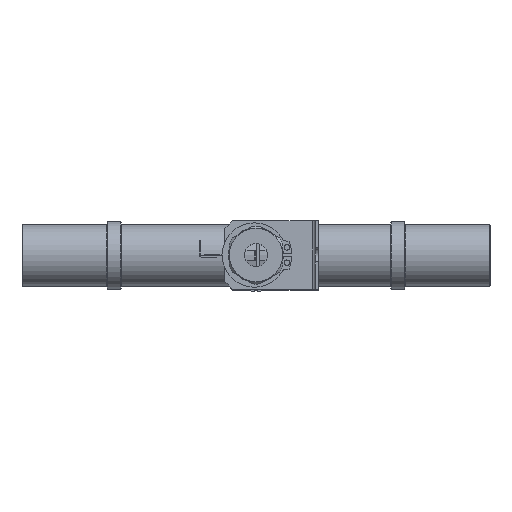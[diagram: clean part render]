
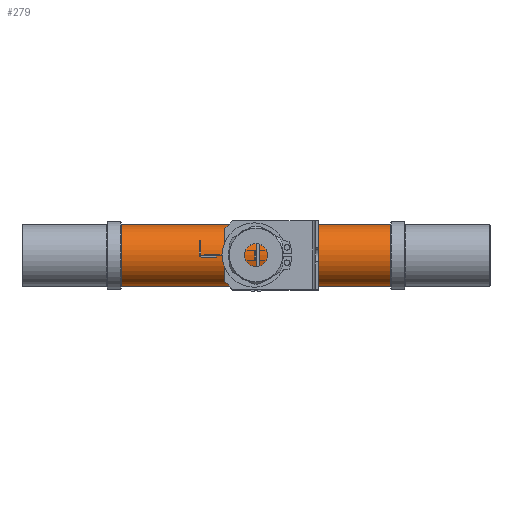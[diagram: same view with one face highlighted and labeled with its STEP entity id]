
A CAD part, top view. The second image highlights one B-rep face of the part: STEP entity #279.
In plain terms, the highlighted cylindrical face has radius 19.75 mm (diameter 39.5 mm), a full revolution.
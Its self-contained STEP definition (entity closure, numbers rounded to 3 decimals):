
#279 = ADVANCED_FACE( '', ( #641, #642 ), #643, .T. );
#641 = FACE_OUTER_BOUND( '', #1157, .T. );
#642 = FACE_OUTER_BOUND( '', #1158, .T. );
#643 = CYLINDRICAL_SURFACE( '', #1159, 19.75 );
#1157 = EDGE_LOOP( '', ( #1817 ) );
#1158 = EDGE_LOOP( '', ( #1818 ) );
#1159 = AXIS2_PLACEMENT_3D( '', #1819, #1820, #1821 );
#1817 = ORIENTED_EDGE( '', *, *, #2874, .T. );
#1818 = ORIENTED_EDGE( '', *, *, #2749, .T. );
#1819 = CARTESIAN_POINT( '', ( -60., 0., 0. ) );
#1820 = DIRECTION( '', ( 1., 0., 0. ) );
#1821 = DIRECTION( '', ( 0., 0., 1. ) );
#2749 = EDGE_CURVE( '', #3208, #3208, #3209, .T. );
#2874 = EDGE_CURVE( '', #3420, #3420, #3421, .T. );
#3208 = VERTEX_POINT( '', #3878 );
#3209 = CIRCLE( '', #3879, 19.75 );
#3420 = VERTEX_POINT( '', #4183 );
#3421 = CIRCLE( '', #4184, 19.75 );
#3878 = CARTESIAN_POINT( '', ( 86.025, 0., 19.75 ) );
#3879 = AXIS2_PLACEMENT_3D( '', #4764, #4765, #4766 );
#4183 = CARTESIAN_POINT( '', ( -86.025, 0., -19.75 ) );
#4184 = AXIS2_PLACEMENT_3D( '', #4916, #4917, #4918 );
#4764 = CARTESIAN_POINT( '', ( 86.025, 0., 0. ) );
#4765 = DIRECTION( '', ( -1., 0., 0. ) );
#4766 = DIRECTION( '', ( 0., 0., 1. ) );
#4916 = CARTESIAN_POINT( '', ( -86.025, 0., 0. ) );
#4917 = DIRECTION( '', ( 1., 0., 0. ) );
#4918 = DIRECTION( '', ( 0., 0., -1. ) );
